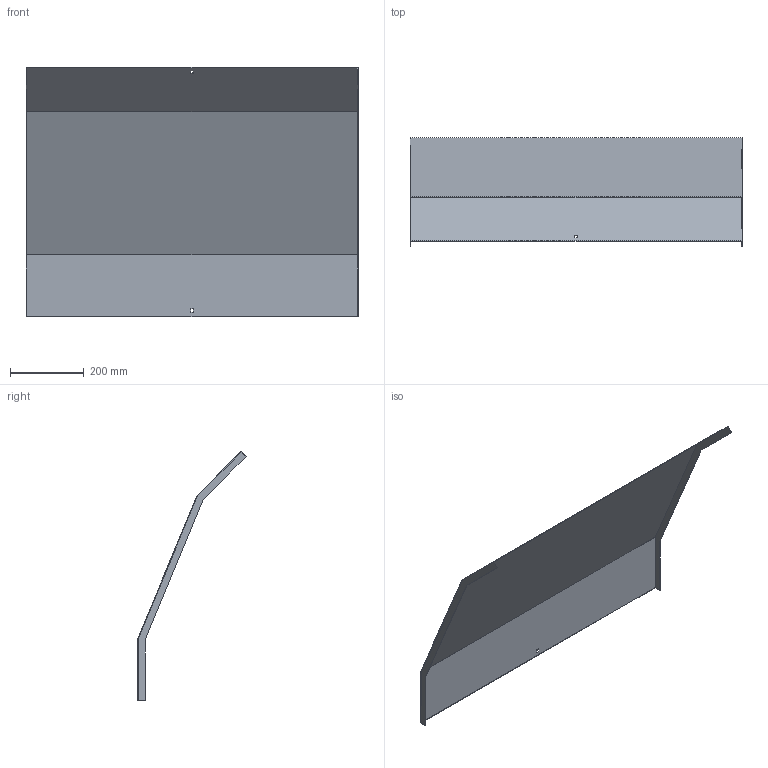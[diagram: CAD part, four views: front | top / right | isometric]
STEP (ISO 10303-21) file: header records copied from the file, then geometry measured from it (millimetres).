
FILE_DESCRIPTION (( 'STEP AP214' ), '1' );
FILE_NAME ('34N5C900.step', '2025-02-21T10:32:58', ( '' ), ( '' ), 'SwSTEP 2.0', 'SolidWorks 2023', '' );
FILE_SCHEMA (( 'AUTOMOTIVE_DESIGN' ));
Length unit declared in the file: millimetre
Products named in the file (1): 34N5C900
Bounding box: 903 x 294.72 x 677.38 mm (x, y, z)
Volume: 1068608.8 mm3; surface area: 1429955.6 mm2
Topology: 1 solids, 1 shells, 26 faces, 72 edges, 48 vertices
Faces by surface type: plane 26
Entity records: 847 total; most frequent: CARTESIAN_POINT 147, ORIENTED_EDGE 144, DIRECTION 126, LINE 72, VECTOR 72, EDGE_CURVE 72, VERTEX_POINT 48, EDGE_LOOP 30
